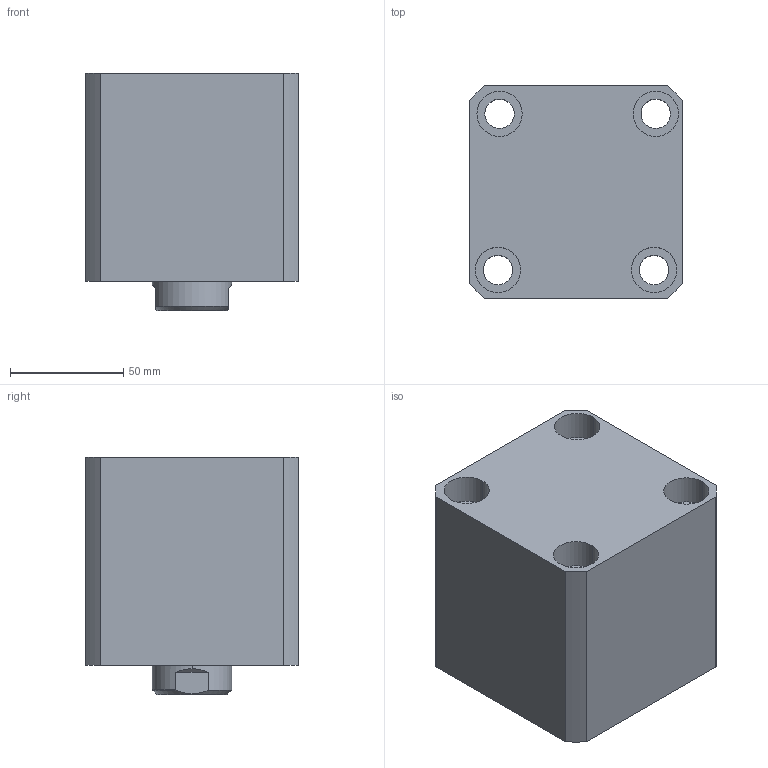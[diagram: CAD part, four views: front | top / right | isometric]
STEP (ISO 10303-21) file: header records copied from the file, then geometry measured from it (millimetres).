
FILE_DESCRIPTION (( 'STEP AP214' ), '1' );
FILE_NAME ('chtb-sdma63x25n_asm.STEP', '2018-05-16T02:21:22', ( 'Windows' ), ( 'Microsoft' ), 'SwSTEP 2.0', 'SolidWorks 2015', '' );
FILE_SCHEMA (( 'AUTOMOTIVE_DESIGN' ));
Length unit declared in the file: millimetre
Products named in the file (4): CHTB-SDMA63X25NBT; CHTB63X25NHSG; CHTB-63QG; chtb-sdma63x25n_asm
Assembly tree (3 placements, depth 2):
  chtb-sdma63x25n_asm
    CHTB-63QG
    CHTB63X25NHSG
    CHTB-SDMA63X25NBT
Bounding box: 94 x 94 x 105 mm (x, y, z)
Volume: 684280.8 mm3; surface area: 124407.7 mm2
Topology: 3 solids, 3 shells, 165 faces, 472 edges, 321 vertices
Faces by surface type: cylinder 107, plane 31, bspline 12, cone 8, torus 7
Entity records: 17727 total; most frequent: CARTESIAN_POINT 13576, ORIENTED_EDGE 932, DIRECTION 716, EDGE_CURVE 466, VERTEX_POINT 321, AXIS2_PLACEMENT_3D 288, EDGE_LOOP 197, ADVANCED_FACE 165
